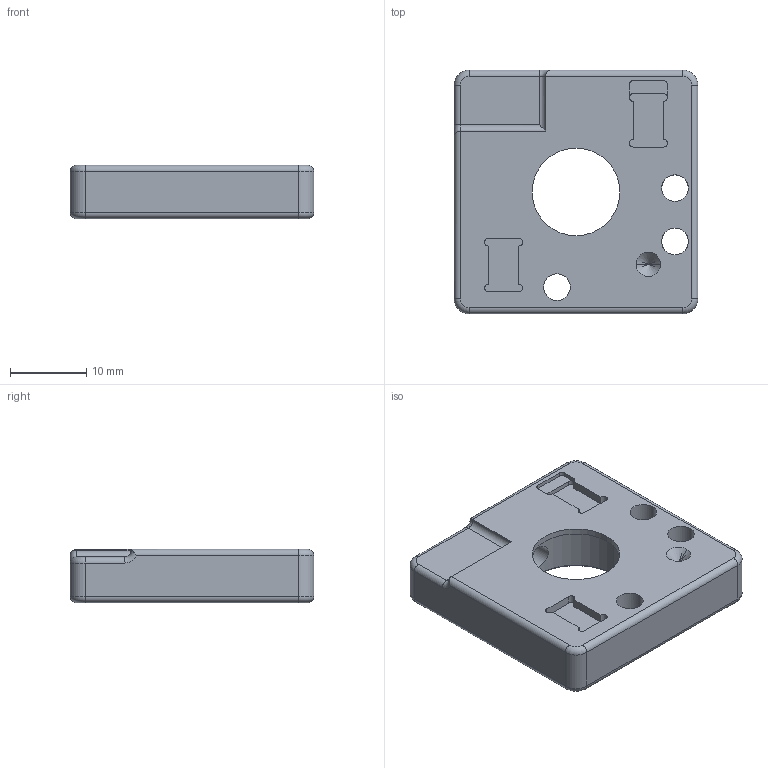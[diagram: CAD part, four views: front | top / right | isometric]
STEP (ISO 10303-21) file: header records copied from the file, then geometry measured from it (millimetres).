
FILE_DESCRIPTION (( 'STEP AP214' ), '1' );
FILE_NAME ('雄啣.STEP', '2026-07-11T01:21:12', ( '' ), ( '' ), 'SwSTEP 2.0', 'SolidWorks 2024', '' );
FILE_SCHEMA (( 'AUTOMOTIVE_DESIGN' ));
Length unit declared in the file: millimetre
Products named in the file (1): 动板
Bounding box: 32 x 32 x 7 mm (x, y, z)
Volume: 5599 mm3; surface area: 3248.3 mm2
Topology: 1 solids, 1 shells, 145 faces, 365 edges, 223 vertices
Faces by surface type: cylinder 59, plane 49, cone 27, torus 10
Entity records: 4433 total; most frequent: CARTESIAN_POINT 841, DIRECTION 797, ORIENTED_EDGE 726, EDGE_CURVE 363, AXIS2_PLACEMENT_3D 307, VERTEX_POINT 223, LINE 183, VECTOR 183
